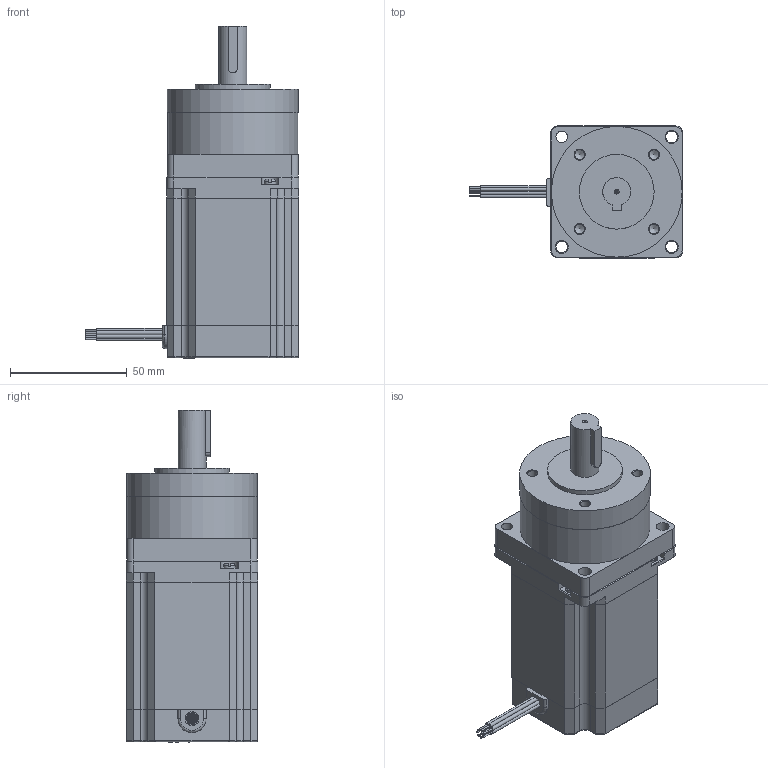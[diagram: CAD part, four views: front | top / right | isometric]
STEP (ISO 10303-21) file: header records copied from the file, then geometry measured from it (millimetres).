
FILE_DESCRIPTION(/* description */ (''),/* implementation_level */ '2;1');
FILE_NAME(/* name */ '\\JOINapp01\Profiles\martins\Desktop\MOTO REDUTORES MP\KTC-HT23-400-R4.25.step',/* time_stamp */ '2018-03-29T16:04:17-03:00',/* author */ ('martins'),/* organization */ (''),/* preprocessor_version */ 'ST-DEVELOPER v16.1',/* originating_system */ 'Autodesk Inventor 2016',/* authorisation */ '');
FILE_SCHEMA (('AUTOMOTIVE_DESIGN { 1 0 10303 214 3 1 1 }'));
Length unit declared in the file: millimetre
Products named in the file (1): KTC-HT23-400-R4.25
Bounding box: 91.4 x 56.5 x 142.2 mm (x, y, z)
Volume: 320073.8 mm3; surface area: 35456.6 mm2
Topology: 1 solids, 3 shells, 675 faces, 1754 edges, 1144 vertices
Faces by surface type: plane 410, bspline 117, cylinder 97, cone 30, torus 21
Full cylindrical faces by diameter (mm): 0.7 x8, 1 x1, 1.567 x2, 1.6 x8, 2.013 x5, 4.134 x4, 5 x9, 5.6 x3, 5.935 x1, 6.35 x2, 10.5 x1, 11 x1, 12 x1, 32 x1, 55.8 x1, 56 x1
Entity records: 21308 total; most frequent: CARTESIAN_POINT 5640, ORIENTED_EDGE 3318, DIRECTION 2747, EDGE_CURVE 1659, LINE 1151, VECTOR 1151, VERTEX_POINT 1123, EDGE_LOOP 818
